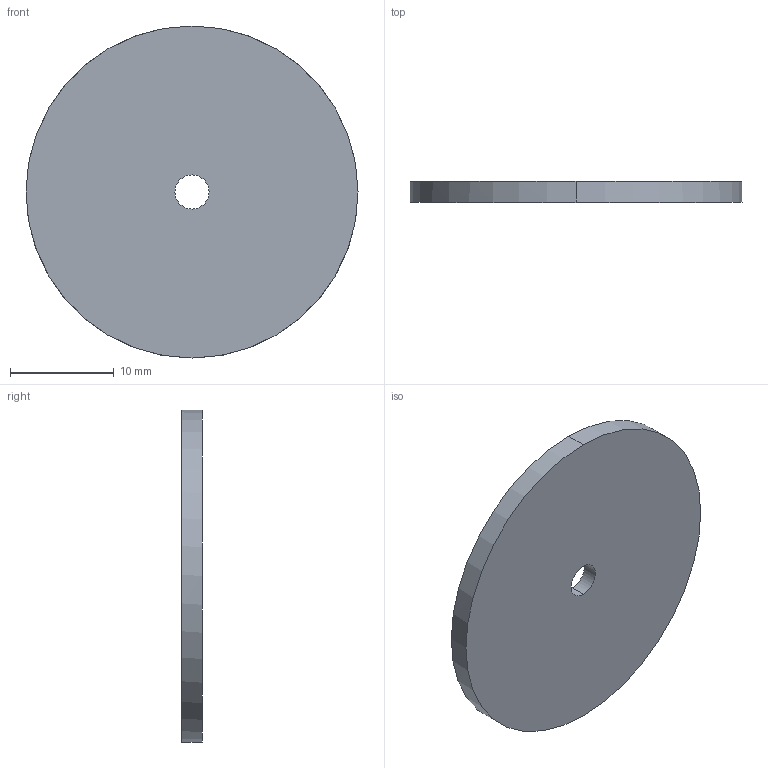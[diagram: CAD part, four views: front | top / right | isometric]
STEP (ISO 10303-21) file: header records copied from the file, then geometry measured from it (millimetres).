
FILE_DESCRIPTION (( 'STEP AP214' ), '1' );
FILE_NAME ('IRR-045-A21-FR_rev01.STEP', '2023-11-03T16:03:55', ( '' ), ( '' ), 'SwSTEP 2.0', 'SolidWorks 2021', '' );
FILE_SCHEMA (( 'AUTOMOTIVE_DESIGN' ));
Length unit declared in the file: millimetre
Products named in the file (1): IRR-045-A21-FR_rev01
Bounding box: 32 x 2 x 32 mm (x, y, z)
Volume: 1581.6 mm3; surface area: 1817.4 mm2
Topology: 1 solids, 1 shells, 19 faces, 42 edges, 28 vertices
Faces by surface type: cylinder 10, plane 9
Entity records: 675 total; most frequent: DIRECTION 104, CARTESIAN_POINT 90, ORIENTED_EDGE 84, EDGE_CURVE 42, AXIS2_PLACEMENT_3D 42, VERTEX_POINT 28, EDGE_LOOP 24, CIRCLE 22
